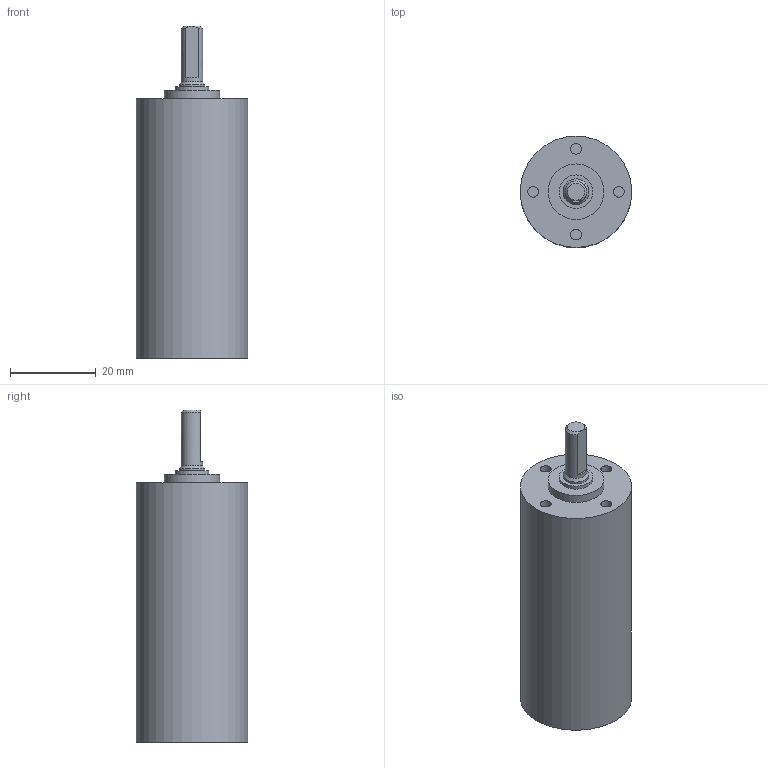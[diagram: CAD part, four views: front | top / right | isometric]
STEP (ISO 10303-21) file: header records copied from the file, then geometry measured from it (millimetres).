
FILE_DESCRIPTION(/* description */ (''),/* implementation_level */ '2;1');
FILE_NAME(/* name */ '26-1_5stage.stp',/* time_stamp */ '2021-02-23T07:22:36+01:00',/* author */ ('DR. FRITZ FAULHABER GmbH & Co. KG'),/* organization */ ('DR. FRITZ FAULHABER GmbH & Co. KG'),/* preprocessor_version */ 'ST-DEVELOPER v16.7',/* originating_system */ 'SIEMENS PLM Software NX 1919',/* authorisation */ '');
FILE_SCHEMA (('AUTOMOTIVE_DESIGN { 1 0 10303 214 3 1 1 1 }'));
Length unit declared in the file: millimetre
Products named in the file (1): 012020_A_2-TP-00214
Bounding box: 26 x 26 x 77.5 mm (x, y, z)
Volume: 28290.8 mm3; surface area: 7277.8 mm2
Topology: 1 solids, 1 shells, 34 faces, 65 edges, 47 vertices
Faces by surface type: plane 17, cylinder 15, cone 2
Full cylindrical faces by diameter (mm): 2.5 x4, 5 x1, 6 x1, 7.85 x1, 11.7 x1, 12.01 x1, 13 x1, 21.5 x1, 22.05 x1, 24 x1, 24.459 x1, 26 x1
Entity records: 824 total; most frequent: DIRECTION 157, CARTESIAN_POINT 123, AXIS2_PLACEMENT_3D 77, ORIENTED_EDGE 74, EDGE_LOOP 63, FACE_BOUND 54, CIRCLE 42, EDGE_CURVE 37
